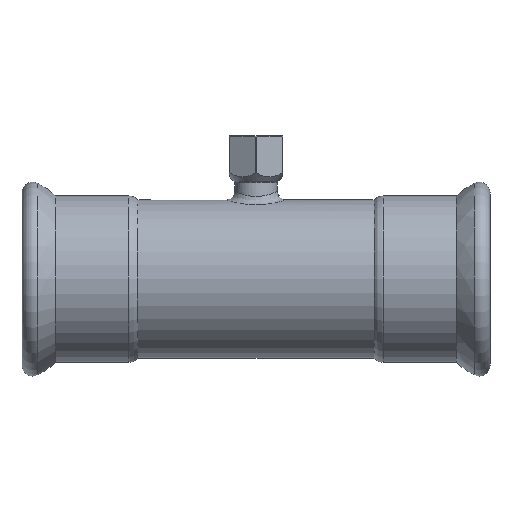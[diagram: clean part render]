
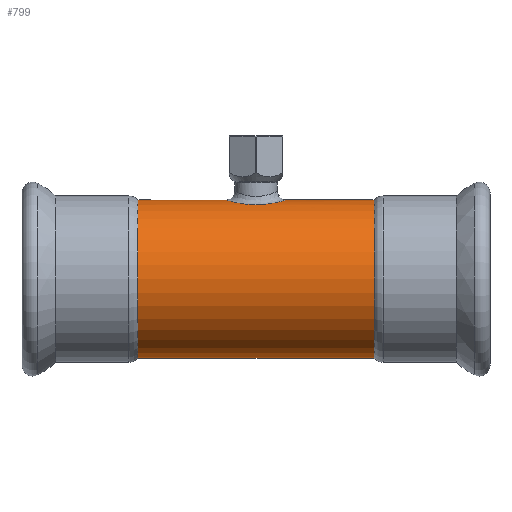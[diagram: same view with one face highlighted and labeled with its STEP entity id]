
A CAD part, front view. The second image highlights one B-rep face of the part: STEP entity #799.
In plain terms, the highlighted cylindrical face has radius 44.45 mm (diameter 88.9 mm), a full revolution.
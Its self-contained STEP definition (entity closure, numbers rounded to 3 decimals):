
#16=B_SPLINE_CURVE_WITH_KNOTS($,3,(#1731,#1732,#1733,#1734,#1735,#1736,
#1737,#1738,#1739,#1740,#1741,#1742,#1743,#1744,#1745,#1746,#1747,#1748,
#1749,#1750,#1751),.UNSPECIFIED.,.T.,.F.,(4,1,1,1,1,1,1,1,1,1,1,1,1,1,1,
3,4),(-7.271,-6.752,-6.233,-5.713,
-5.194,-4.501,-4.155,-3.809,
-3.463,-3.116,-2.597,-2.078,
-1.558,-1.039,-0.519,0.,0.),
 .UNSPECIFIED.);
#123=FACE_BOUND($,#277,.T.);
#124=FACE_BOUND($,#278,.T.);
#160=CYLINDRICAL_SURFACE($,#902,44.45);
#203=FACE_OUTER_BOUND($,#276,.T.);
#276=EDGE_LOOP($,(#714));
#277=EDGE_LOOP($,(#715));
#278=EDGE_LOOP($,(#716));
#383=CIRCLE($,#903,44.45);
#384=CIRCLE($,#904,44.45);
#455=VERTEX_POINT($,#1707);
#457=VERTEX_POINT($,#1754);
#458=VERTEX_POINT($,#1756);
#552=EDGE_CURVE($,#455,#455,#16,.T.);
#553=EDGE_CURVE($,#457,#457,#383,.T.);
#554=EDGE_CURVE($,#458,#458,#384,.T.);
#714=ORIENTED_EDGE($,*,*,#553,.F.);
#715=ORIENTED_EDGE($,*,*,#554,.T.);
#716=ORIENTED_EDGE($,*,*,#552,.F.);
#799=ADVANCED_FACE($,(#203,#123,#124),#160,.T.);
#902=AXIS2_PLACEMENT_3D($,#1753,#1110,#1111);
#903=AXIS2_PLACEMENT_3D($,#1755,#1112,#1113);
#904=AXIS2_PLACEMENT_3D($,#1757,#1114,#1115);
#1110=DIRECTION('center_axis',(1.,0.,0.));
#1111=DIRECTION('ref_axis',(0.,1.,0.));
#1112=DIRECTION('center_axis',(1.,0.,0.));
#1113=DIRECTION('ref_axis',(0.,1.,0.));
#1114=DIRECTION('center_axis',(1.,0.,0.));
#1115=DIRECTION('ref_axis',(0.,1.,0.));
#1707=CARTESIAN_POINT('',(-131.5,-15.281,41.741));
#1731=CARTESIAN_POINT('Ctrl Pts',(-131.5,-15.284,41.739));
#1732=CARTESIAN_POINT('Ctrl Pts',(-128.951,-15.284,41.739));
#1733=CARTESIAN_POINT('Ctrl Pts',(-123.832,-14.218,42.151));
#1734=CARTESIAN_POINT('Ctrl Pts',(-117.799,-9.878,43.458));
#1735=CARTESIAN_POINT('Ctrl Pts',(-114.365,-3.58,44.487));
#1736=CARTESIAN_POINT('Ctrl Pts',(-114.35,4.341,44.498));
#1737=CARTESIAN_POINT('Ctrl Pts',(-118.353,10.506,43.284));
#1738=CARTESIAN_POINT('Ctrl Pts',(-123.965,13.949,42.219));
#1739=CARTESIAN_POINT('Ctrl Pts',(-128.893,15.338,41.721));
#1740=CARTESIAN_POINT('Ctrl Pts',(-134.083,15.34,41.72));
#1741=CARTESIAN_POINT('Ctrl Pts',(-139.84,13.731,42.3));
#1742=CARTESIAN_POINT('Ctrl Pts',(-145.216,9.869,43.459));
#1743=CARTESIAN_POINT('Ctrl Pts',(-148.635,3.569,44.491));
#1744=CARTESIAN_POINT('Ctrl Pts',(-148.642,-3.559,44.49));
#1745=CARTESIAN_POINT('Ctrl Pts',(-145.215,-9.867,43.462));
#1746=CARTESIAN_POINT('Ctrl Pts',(-139.184,-14.212,42.153));
#1747=CARTESIAN_POINT('Ctrl Pts',(-134.049,-15.284,41.739));
#1748=CARTESIAN_POINT('Ctrl Pts',(-131.5,-15.284,41.739));
#1749=CARTESIAN_POINT('Ctrl Pts',(-131.5,-15.284,41.739));
#1750=CARTESIAN_POINT('Ctrl Pts',(-131.5,-15.284,41.739));
#1751=CARTESIAN_POINT('Ctrl Pts',(-131.5,-15.284,41.739));
#1753=CARTESIAN_POINT('Origin',(-74.594,0.,0.));
#1754=CARTESIAN_POINT('',(-65.187,44.45,0.));
#1755=CARTESIAN_POINT('Origin',(-65.187,0.,0.));
#1756=CARTESIAN_POINT('',(-197.813,44.45,0.));
#1757=CARTESIAN_POINT('Origin',(-197.813,0.,0.));
